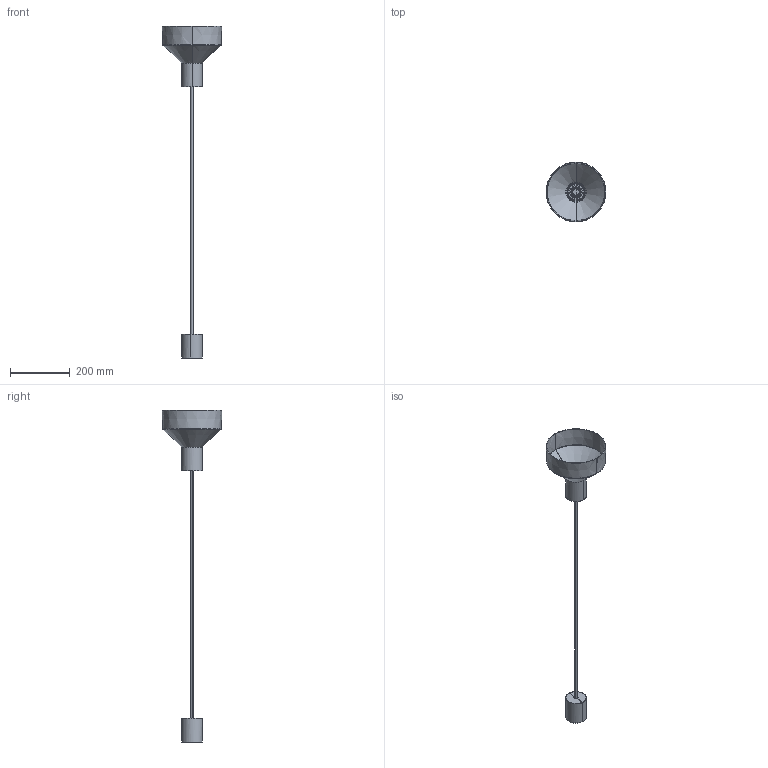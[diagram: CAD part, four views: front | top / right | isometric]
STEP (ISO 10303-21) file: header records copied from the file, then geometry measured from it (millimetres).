
FILE_DESCRIPTION(/* description */ (''),/* implementation_level */ '2;1');
FILE_NAME(/* name */ 'C:\Users\francosartori\Documents\Modelos\01_Digitalizados\1_KOMBO\03_Publicación\68593.stp',/* time_stamp */ '2020-05-22T13:59:11+02:00',/* author */ ('FrancoSartori'),/* organization */ (''),/* preprocessor_version */ 'ST-DEVELOPER v18.1',/* originating_system */ 'AutoCAD Mechanical',/* authorisation */ '');
FILE_SCHEMA (('AUTOMOTIVE_DESIGN { 1 0 10303 214 3 1 1 }'));
Length unit declared in the file: millimetre
Products named in the file (3): Product; 68593_68594_KOMBO_CSUPPORT - KOMBO ceiling support-583334-_3D_; 68593_68594_KOMBO_LAMP - KOMBO Lamp Holder-583348-_3D_
Assembly tree (2 placements, depth 2):
  Product
    68593_68594_KOMBO_CSUPPORT - KOMBO ceiling support-583334-_3D_
    68593_68594_KOMBO_LAMP - KOMBO Lamp Holder-583348-_3D_
Bounding box: 200 x 200 x 1111.02 mm (x, y, z)
Volume: 265855.7 mm3; surface area: 445681.1 mm2
Topology: 7 solids, 7 shells, 156 faces, 374 edges, 222 vertices
Faces by surface type: plane 54, cylinder 44, torus 32, cone 26
Entity records: 6287 total; most frequent: CARTESIAN_POINT 2839, ORIENTED_EDGE 748, DIRECTION 630, EDGE_CURVE 374, AXIS2_PLACEMENT_3D 255, VERTEX_POINT 222, B_SPLINE_CURVE_WITH_KNOTS 160, FACE_OUTER_BOUND 156
